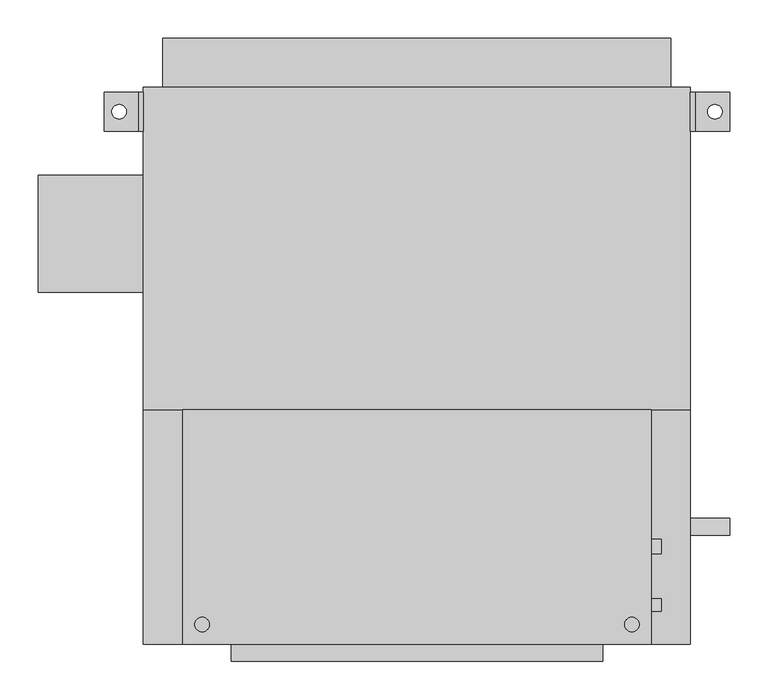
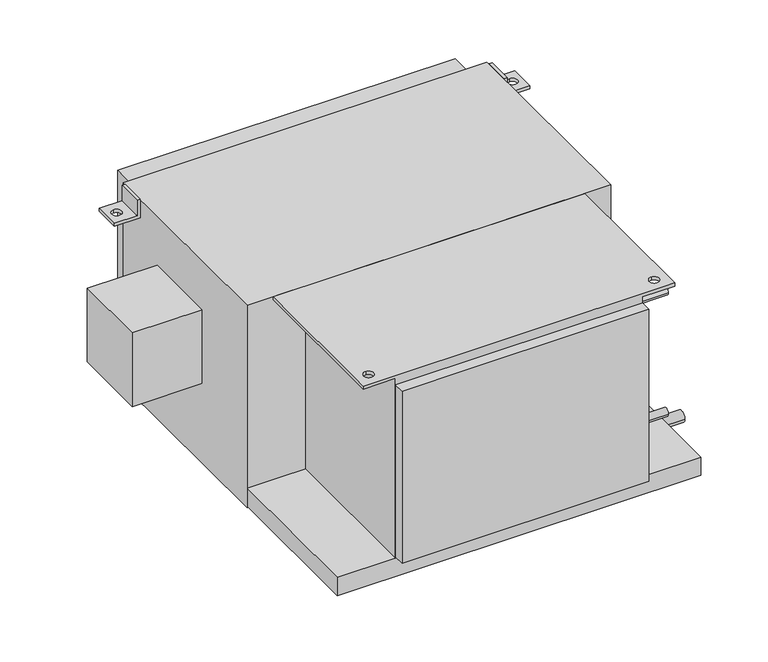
"""IFC4 building model written with IfcOpenShell, lengths in millimetres: proxy geometry, Concealed_High_Capacity_Horizontal_Fan_Coil_Unit_With_Plenum_-_42DCA_-_CARRIER_-_4-Pipe_RH_2022 : Size 08 - 277v/60Hz/1Ph - 6/2 Coil."""

from ifc_helpers import new_model, si_unit, point, frame, frame_2d, origin, place, context, project, spatial, polyline, circle_curve, trimmed, segment, composite_curve, outline, extrude, source, transform, mapped, element, save
from ifc_brep_helpers import plane_surface, revolved_surface, advanced_brep


def mechanical_equipment_019e71df(model_context):
    return source(origin(), model_context, "Body", "SolidModel", [
        advanced_brep(
        [(-152.4, -85.725, 0.0), (-152.4, -390.525, 0.0), (457.2, -390.525, 0.0), (457.2, -85.725, 0.0), (-127.0, -374.65, 0.0), (-127.0, -355.6, 0.0), (431.8, -374.65, 0.0), (431.8, -355.6, 0.0), (393.7, -85.725, -377.825), (393.7, -390.525, -377.825), (-88.9, -390.525, -377.825), (-88.9, -85.725, -377.825), (-88.9, -85.725, -6.35), (-152.4, -85.725, -6.35), (457.2, -85.725, -6.35), (393.7, -85.725, -6.35), (-88.9, -390.525, -6.35), (393.7, -390.525, -6.35), (457.2, -390.525, -6.35), (-152.4, -390.525, -6.35), (-127.0, -355.6, -6.35), (-127.0, -374.65, -6.35), (431.8, -355.6, -6.35), (431.8, -374.65, -6.35)],
        [
            (0, 1),
            (1, 2),
            (2, 3),
            (3, 0),
            (4, 5, circle_curve(frame((-127.0, -365.125, 0.0), z_axis=(0.0, 0.0, -1.0), x_axis=(0.0, 1.0, 0.0)), 9.525)),
            (5, 4, circle_curve(frame((-127.0, -365.125, 0.0), z_axis=(0.0, 0.0, -1.0), x_axis=(0.0, 1.0, 0.0)), 9.525)),
            (6, 7, circle_curve(frame((431.8, -365.125, 0.0), z_axis=(0.0, 0.0, -1.0), x_axis=(0.0, 1.0, 0.0)), 9.525)),
            (7, 6, circle_curve(frame((431.8, -365.125, 0.0), z_axis=(0.0, 0.0, -1.0), x_axis=(0.0, 1.0, 0.0)), 9.525)),
            (8, 9),
            (9, 10),
            (10, 11),
            (11, 8),
            (11, 12),
            (12, 13),
            (13, 0),
            (3, 14),
            (14, 15),
            (15, 8),
            (10, 16),
            (16, 12),
            (9, 17),
            (17, 18),
            (18, 2),
            (1, 19),
            (19, 16),
            (15, 17),
            (19, 13),
            (20, 21, circle_curve(frame((-127.0, -365.125, -6.35), z_axis=(0.0, 0.0, 1.0), x_axis=(0.0, 1.0, 0.0)), 9.525)),
            (21, 20, circle_curve(frame((-127.0, -365.125, -6.35), z_axis=(0.0, 0.0, 1.0), x_axis=(0.0, 1.0, 0.0)), 9.525)),
            (14, 18),
            (22, 23, circle_curve(frame((431.8, -365.125, -6.35), z_axis=(0.0, 0.0, 1.0), x_axis=(0.0, 1.0, 0.0)), 9.525)),
            (23, 22, circle_curve(frame((431.8, -365.125, -6.35), z_axis=(0.0, 0.0, 1.0), x_axis=(0.0, 1.0, 0.0)), 9.525)),
            (4, 21),
            (20, 5),
            (6, 23),
            (22, 7),
        ],
        [
            plane_surface(frame((-88.9, -85.725, 0.0), z_axis=(0.0, 0.0, 1.0), x_axis=(-1.0, 0.0, 0.0))),
            plane_surface(frame((-88.9, -85.725, -377.825), z_axis=(0.0, 0.0, -1.0), x_axis=(1.0, 0.0, 0.0))),
            plane_surface(frame((393.7, -85.725, 0.0), z_axis=(0.0, 1.0, 0.0), x_axis=(0.0, 0.0, -1.0))),
            plane_surface(frame((-88.9, -85.725, 0.0), z_axis=(-1.0, 0.0, 0.0), x_axis=(0.0, 0.0, -1.0))),
            plane_surface(frame((-88.9, -390.525, 0.0), z_axis=(0.0, -1.0, 0.0), x_axis=(0.0, 0.0, -1.0))),
            plane_surface(frame((393.7, -390.525, 0.0), z_axis=(1.0, 0.0, 0.0), x_axis=(0.0, 0.0, -1.0))),
            plane_surface(frame((-152.4, -85.725, -6.35), z_axis=(0.0, 0.0, -1.0), x_axis=(0.0, 1.0, 0.0))),
            plane_surface(frame((-152.4, -85.725, 0.0), z_axis=(-1.0, 0.0, 0.0), x_axis=(0.0, 0.0, -1.0))),
            plane_surface(frame((457.2, -390.525, 0.0), z_axis=(1.0, 0.0, 0.0), x_axis=(0.0, 0.0, -1.0))),
            revolved_surface(polyline([(-127.0, -355.6, -6.35), (-127.0, -355.6, 0.0)]), (-127.0, -365.125, 0.0), (0.0, 0.0, -1.0)),
            revolved_surface(polyline([(431.8, -355.6, -6.35), (431.8, -355.6, 0.0)]), (431.8, -365.125, 0.0), (0.0, 0.0, -1.0)),
        ],
        [
            (0, [[1, 2, 3, 4], [5, 6], [7, 8]]),
            (1, [[9, 10, 11, 12]]),
            (2, [[-12, 13, 14, 15, -4, 16, 17, 18]]),
            (3, [[-11, 19, 20, -13]]),
            (4, [[-10, 21, 22, 23, -2, 24, 25, -19]]),
            (5, [[-9, -18, 26, -21]]),
            (6, [[-14, -20, -25, 27], [28, 29]]),
            (6, [[30, -22, -26, -17], [31, 32]]),
            (7, [[-27, -24, -1, -15]]),
            (8, [[-30, -16, -3, -23]]),
            (9, [[33, -28, 34, -5]]),
            (9, [[-33, -6, -34, -29]]),
            (10, [[35, -31, 36, -7]]),
            (10, [[-35, -8, -36, -32]]),
        ],
    ),
        advanced_brep(
        [(-203.2, 327.025, -38.1), (-254.0, 327.025, -38.1), (-254.0, 327.025, -31.75), (-209.55, 327.025, -31.75), (-209.55, 327.025, 0.0), (-203.2, 327.025, 0.0), (-203.2, 276.225, -38.1), (-203.2, 276.225, 0.0), (-209.55, 276.225, 0.0), (-209.55, 276.225, -31.75), (-254.0, 276.225, -31.75), (-254.0, 276.225, -38.1), (-234.95, 292.1, -38.1), (-234.95, 311.15, -38.1), (-234.95, 311.15, -31.75), (-234.95, 292.1, -31.75)],
        [
            (0, 1),
            (1, 2),
            (2, 3),
            (3, 4),
            (4, 5),
            (5, 0),
            (6, 7),
            (7, 8),
            (8, 9),
            (9, 10),
            (10, 11),
            (11, 6),
            (0, 6),
            (11, 1),
            (12, 13, circle_curve(frame((-234.95, 301.625, -38.1), z_axis=(0.0, 0.0, 1.0), x_axis=(0.0, -1.0, 0.0)), 9.525)),
            (13, 12, circle_curve(frame((-234.95, 301.625, -38.1), z_axis=(0.0, 0.0, 1.0), x_axis=(0.0, -1.0, 0.0)), 9.525)),
            (10, 2),
            (9, 3),
            (14, 15, circle_curve(frame((-234.95, 301.625, -31.75), z_axis=(0.0, 0.0, -1.0), x_axis=(0.0, -1.0, 0.0)), 9.525)),
            (15, 14, circle_curve(frame((-234.95, 301.625, -31.75), z_axis=(0.0, 0.0, -1.0), x_axis=(0.0, -1.0, 0.0)), 9.525)),
            (8, 4),
            (7, 5),
            (14, 13),
            (12, 15),
        ],
        [
            plane_surface(frame((-203.2, 327.025, -38.1), z_axis=(0.0, 1.0, 0.0), x_axis=(-1.0, 0.0, 0.0))),
            plane_surface(frame((-203.2, 276.225, -38.1), z_axis=(0.0, -1.0, 0.0), x_axis=(1.0, 0.0, 0.0))),
            plane_surface(frame((-203.2, 327.025, -38.1), z_axis=(0.0, 0.0, -1.0), x_axis=(0.0, -1.0, 0.0))),
            plane_surface(frame((-254.0, 327.025, -38.1), z_axis=(-1.0, 0.0, 0.0), x_axis=(0.0, -1.0, 0.0))),
            plane_surface(frame((-254.0, 327.025, -31.75), z_axis=(0.0, 0.0, 1.0), x_axis=(0.0, -1.0, 0.0))),
            plane_surface(frame((-209.55, 327.025, -31.75), z_axis=(-1.0, 0.0, 0.0), x_axis=(0.0, -1.0, 0.0))),
            plane_surface(frame((-209.55, 327.025, 0.0), z_axis=(0.0, 0.0, 1.0), x_axis=(0.0, -1.0, 0.0))),
            plane_surface(frame((-203.2, 327.025, 0.0), z_axis=(1.0, 0.0, 0.0), x_axis=(0.0, -1.0, 0.0))),
            revolved_surface(polyline([(-234.95, 292.1, -38.1), (-234.95, 292.1, -31.75)]), (-234.95, 301.625, -31.75), (0.0, 0.0, -1.0)),
        ],
        [
            (0, [[1, 2, 3, 4, 5, 6]]),
            (1, [[7, 8, 9, 10, 11, 12]]),
            (2, [[-1, 13, -12, 14], [15, 16]]),
            (3, [[-2, -14, -11, 17]]),
            (4, [[-3, -17, -10, 18], [19, 20]]),
            (5, [[-4, -18, -9, 21]]),
            (6, [[-5, -21, -8, 22]]),
            (7, [[-6, -22, -7, -13]]),
            (8, [[23, -15, 24, -19]]),
            (8, [[-23, -20, -24, -16]]),
        ],
    ),
        advanced_brep(
        [(508.0, 327.025, -38.1), (508.0, 327.025, 0.0), (514.35, 327.025, 0.0), (514.35, 327.025, -31.75), (558.8, 327.025, -31.75), (558.8, 327.025, -38.1), (508.0, 276.225, -38.1), (558.8, 276.225, -38.1), (558.8, 276.225, -31.75), (514.35, 276.225, -31.75), (514.35, 276.225, 0.0), (508.0, 276.225, 0.0), (539.75, 311.15, -31.75), (539.75, 292.1, -31.75), (539.75, 292.1, -38.1), (539.75, 311.15, -38.1)],
        [
            (0, 1),
            (1, 2),
            (2, 3),
            (3, 4),
            (4, 5),
            (5, 0),
            (6, 7),
            (7, 8),
            (8, 9),
            (9, 10),
            (10, 11),
            (11, 6),
            (0, 6),
            (11, 1),
            (10, 2),
            (9, 3),
            (8, 4),
            (12, 13, circle_curve(frame((539.75, 301.625, -31.75), z_axis=(0.0, 0.0, -1.0), x_axis=(0.0, -1.0, 0.0)), 9.525)),
            (13, 12, circle_curve(frame((539.75, 301.625, -31.75), z_axis=(0.0, 0.0, -1.0), x_axis=(0.0, -1.0, 0.0)), 9.525)),
            (7, 5),
            (14, 15, circle_curve(frame((539.75, 301.625, -38.1), z_axis=(0.0, 0.0, 1.0), x_axis=(0.0, -1.0, 0.0)), 9.525)),
            (15, 14, circle_curve(frame((539.75, 301.625, -38.1), z_axis=(0.0, 0.0, 1.0), x_axis=(0.0, -1.0, 0.0)), 9.525)),
            (12, 15),
            (14, 13),
        ],
        [
            plane_surface(frame((-203.2, 327.025, -38.1), z_axis=(0.0, 1.0, 0.0), x_axis=(-1.0, 0.0, 0.0))),
            plane_surface(frame((-203.2, 276.225, -38.1), z_axis=(0.0, -1.0, 0.0), x_axis=(1.0, 0.0, 0.0))),
            plane_surface(frame((508.0, 327.025, -38.1), z_axis=(-1.0, 0.0, 0.0), x_axis=(0.0, -1.0, 0.0))),
            plane_surface(frame((508.0, 327.025, 0.0), z_axis=(0.0, 0.0, 1.0), x_axis=(0.0, -1.0, 0.0))),
            plane_surface(frame((514.35, 327.025, 0.0), z_axis=(1.0, 0.0, 0.0), x_axis=(0.0, -1.0, 0.0))),
            plane_surface(frame((514.35, 327.025, -31.75), z_axis=(0.0, 0.0, 1.0), x_axis=(0.0, -1.0, 0.0))),
            plane_surface(frame((558.8, 327.025, -31.75), z_axis=(1.0, 0.0, 0.0), x_axis=(0.0, -1.0, 0.0))),
            plane_surface(frame((558.8, 327.025, -38.1), z_axis=(0.0, 0.0, -1.0), x_axis=(0.0, -1.0, 0.0))),
            revolved_surface(polyline([(539.75, 292.1, -38.1), (539.75, 292.1, -31.75)]), (539.75, 301.625, -31.75), (0.0, 0.0, -1.0)),
        ],
        [
            (0, [[1, 2, 3, 4, 5, 6]]),
            (1, [[7, 8, 9, 10, 11, 12]]),
            (2, [[-1, 13, -12, 14]]),
            (3, [[-2, -14, -11, 15]]),
            (4, [[-3, -15, -10, 16]]),
            (5, [[-4, -16, -9, 17], [18, 19]]),
            (6, [[-5, -17, -8, 20]]),
            (7, [[-6, -20, -7, -13], [21, 22]]),
            (8, [[23, -21, 24, -18]]),
            (8, [[-23, -19, -24, -22]]),
        ],
    ),
        extrude(outline(polyline([(-177.8, 396.875), (482.6, 396.875), (482.6, 333.375), (-177.8, 333.375), (-177.8, 396.875)])), frame((0.0, 0.0, -377.825), z_axis=(0.0, 0.0, 1.0), x_axis=(1.0, 0.0, 0.0)), (0.0, 0.0, 1.0), 355.6),
        extrude(outline(composite_curve([segment(trimmed(circle_curve(frame_2d((-263.525, -76.2)), 9.525), [point((-254.0, -76.2))], [point((-273.05, -76.2))], False, "CARTESIAN"), True, "CONTINUOUS"), segment(trimmed(circle_curve(frame_2d((-263.525, -76.2)), 9.525), [point((-273.05, -76.2))], [point((-254.0, -76.2))], False, "CARTESIAN"), True, "CONTINUOUS")], self_intersect=False)), frame((393.7, 0.0, 0.0), z_axis=(1.0, 0.0, 0.0), x_axis=(0.0, 1.0, 0.0)), (0.0, 0.0, 1.0), 76.2),
        extrude(outline(composite_curve([segment(trimmed(circle_curve(frame_2d((-263.525, -301.625)), 9.525), [point((-254.0, -301.625))], [point((-273.05, -301.625))], False, "CARTESIAN"), True, "CONTINUOUS"), segment(trimmed(circle_curve(frame_2d((-263.525, -301.625)), 9.525), [point((-273.05, -301.625))], [point((-254.0, -301.625))], False, "CARTESIAN"), True, "CONTINUOUS")], self_intersect=False)), frame((393.7, 0.0, 0.0), z_axis=(1.0, 0.0, 0.0), x_axis=(0.0, 1.0, 0.0)), (0.0, 0.0, 1.0), 76.2),
        extrude(outline(composite_curve([segment(trimmed(circle_curve(frame_2d((-339.725, -50.8)), 7.9375), [point((-331.7875, -50.8))], [point((-347.6625, -50.8))], False, "CARTESIAN"), True, "CONTINUOUS"), segment(trimmed(circle_curve(frame_2d((-339.725, -50.8)), 7.9375), [point((-347.6625, -50.8))], [point((-331.7875, -50.8))], False, "CARTESIAN"), True, "CONTINUOUS")], self_intersect=False)), frame((393.7, 0.0, 0.0), z_axis=(1.0, 0.0, 0.0), x_axis=(0.0, 1.0, 0.0)), (0.0, 0.0, 1.0), 76.2),
        extrude(outline(composite_curve([segment(trimmed(circle_curve(frame_2d((-339.725, -301.625)), 7.9375), [point((-331.7875, -301.625))], [point((-347.6625, -301.625))], False, "CARTESIAN"), True, "CONTINUOUS"), segment(trimmed(circle_curve(frame_2d((-339.725, -301.625)), 7.9375), [point((-347.6625, -301.625))], [point((-331.7875, -301.625))], False, "CARTESIAN"), True, "CONTINUOUS")], self_intersect=False)), frame((393.7, 0.0, 0.0), z_axis=(1.0, 0.0, 0.0), x_axis=(0.0, 1.0, 0.0)), (0.0, 0.0, 1.0), 76.2),
        extrude(outline(composite_curve([segment(trimmed(circle_curve(frame_2d((-238.125, -403.225)), 11.1125), [point((-227.0125, -403.225))], [point((-249.2375, -403.225))], False, "CARTESIAN"), True, "CONTINUOUS"), segment(trimmed(circle_curve(frame_2d((-238.125, -403.225)), 11.1125), [point((-249.2375, -403.225))], [point((-227.0125, -403.225))], False, "CARTESIAN"), True, "CONTINUOUS")], self_intersect=False)), frame((508.0, 0.0, 0.0), z_axis=(1.0, 0.0, 0.0), x_axis=(0.0, 1.0, 0.0)), (0.0, 0.0, 1.0), 50.8),
        extrude(outline(polyline([(-339.725, 66.675), (-339.725, 219.075), (-203.2, 219.075), (-203.2, 66.675), (-339.725, 66.675)])), frame((0.0, 0.0, -254.0), z_axis=(0.0, 0.0, 1.0), x_axis=(1.0, 0.0, 0.0)), (0.0, 0.0, 1.0), 152.4),
        extrude(outline(polyline([(393.7, -412.75), (-88.9, -412.75), (-88.9, -390.525), (393.7, -390.525), (393.7, -412.75)])), frame((0.0, 0.0, -374.65), z_axis=(0.0, 0.0, 1.0), x_axis=(1.0, 0.0, 0.0)), (0.0, 0.0, 1.0), 355.6),
        extrude(outline(polyline([(508.0, -85.725), (-203.2, -85.725), (-203.2, 333.375), (508.0, 333.375), (508.0, -85.725)])), frame((0.0, 0.0, -419.1), z_axis=(0.0, 0.0, 1.0), x_axis=(1.0, 0.0, 0.0)), (0.0, 0.0, 1.0), 419.1),
        extrude(outline(polyline([(508.0, -85.725), (508.0, -390.525), (-203.2, -390.525), (-203.2, -85.725), (508.0, -85.725)])), frame((0.0, 0.0, -415.925), z_axis=(0.0, 0.0, 1.0), x_axis=(1.0, 0.0, 0.0)), (0.0, 0.0, 1.0), 38.1),
    ])


if __name__ == "__main__":
    model = new_model("IFC4")
    model_context = context("Model", 3, world=origin())
    ifc_project = project(units=[si_unit("LENGTHUNIT", "METRE", prefix="MILLI")], contexts=[model_context])
    site = spatial("IfcSite", under=ifc_project)
    building = spatial("IfcBuilding", under=site)
    placement = place(None, origin())
    mechanical_equipment_shape = mechanical_equipment_019e71df(model_context)
    element("IfcBuildingElementProxy", 1, Name="Concealed_High_Capacity_Horizontal_Fan_Coil_Unit_With_Plenum_-_42DCA_-_CARRIER_-_4-Pipe_RH_2022 : Size 08 - 277v/60Hz/1Ph - 6/2 Coil", ObjectType="Concealed_High_Capacity_Horizontal_Fan_Coil_Unit_With_Plenum_-_42DCA_-_CARRIER_-_4-Pipe_RH_2022 : Size 08 - 277v/60Hz/1Ph - 6/2 Coil", at=placement, inside=building, context=model_context, shape_type="MappedRepresentation", body=[
        mapped(mechanical_equipment_shape, transform((0.0, 0.0, 0.0), x_axis=(1.0, 0.0, 0.0), y_axis=(0.0, 1.0, 0.0), z_axis=(0.0, 0.0, 1.0))),
    ])
    save(model, "model.ifc")
